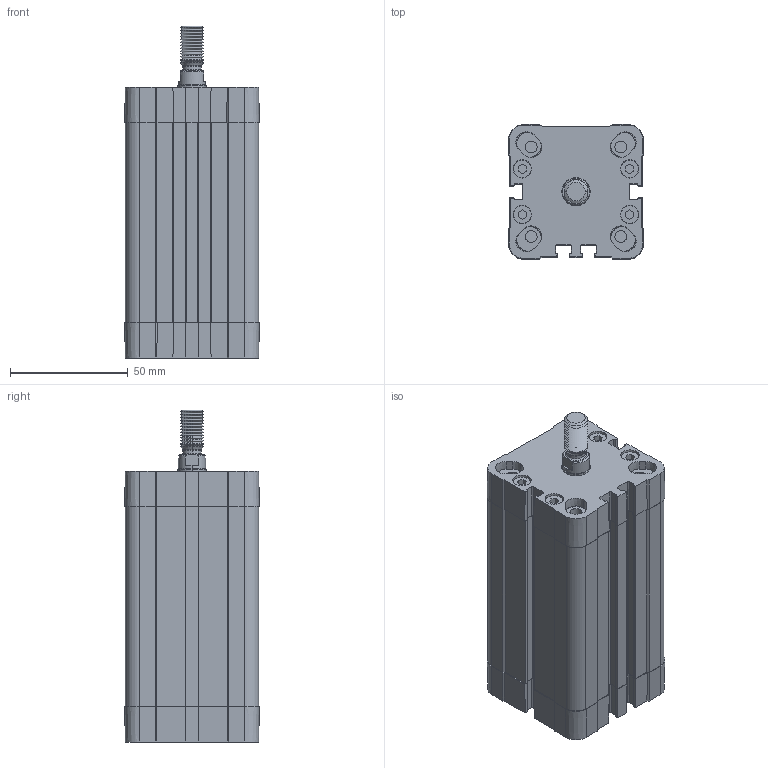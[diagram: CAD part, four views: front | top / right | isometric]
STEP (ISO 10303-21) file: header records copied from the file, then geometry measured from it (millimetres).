
FILE_DESCRIPTION (( 'STEP AP214' ), '1' );
FILE_NAME ('NSKI040.0070 M.STEP', '2011-06-21T08:57:42', ( 'utente' ), ( '' ), 'SwSTEP 2.0', 'SolidWorks 2009', '' );
FILE_SCHEMA (( 'AUTOMOTIVE_DESIGN' ));
Length unit declared in the file: millimetre
Products named in the file (5): REAR END CAP-NSKI 40; FRONT END CAP-NSKI 40; BARREL-NSKI40_STROKE 0070; PISTON ROD-NSKI 040 M_STROKE 0070; NSKI040.0070 M
Assembly tree (4 placements, depth 2):
  NSKI040.0070 M
    REAR END CAP-NSKI 40
    PISTON ROD-NSKI 040 M_STROKE 0070
    FRONT END CAP-NSKI 40
    BARREL-NSKI40_STROKE 0070
Bounding box: 57.2 x 57.2 x 141 mm (x, y, z)
Volume: 253284.1 mm3; surface area: 82262.3 mm2
Topology: 5 solids, 5 shells, 1057 faces, 2756 edges, 1746 vertices
Faces by surface type: plane 531, cone 298, cylinder 224, torus 4
Entity records: 32933 total; most frequent: DIRECTION 5788, CARTESIAN_POINT 5754, ORIENTED_EDGE 5480, EDGE_CURVE 2740, AXIS2_PLACEMENT_3D 2052, VERTEX_POINT 1746, VECTOR 1684, LINE 1684
